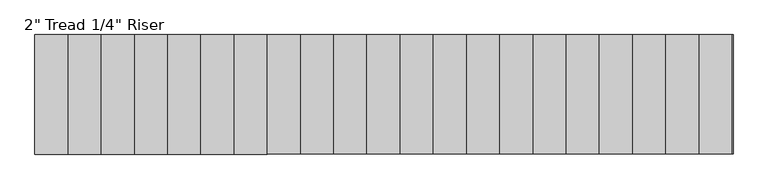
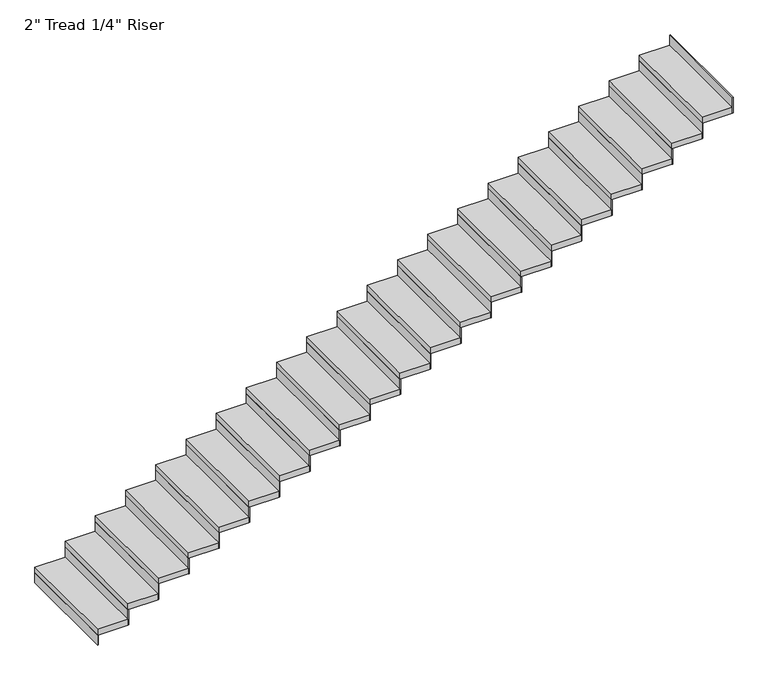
"""IFC4 building model written with IfcOpenShell, lengths in millimetres: stair flight geometry."""

from ifc_helpers import new_model, si_unit, frame, origin, origin_with_axes, place, context, project, spatial, polyline, outline, extrude, source, transform, mapped, element, save


def stair_flight_d89cc62d(model_context):
    return source(origin(), model_context, "Body", "SweptSolid", [
        extrude(outline(polyline([(10185.2072927, -52193.6426165), (10178.8572927, -52193.6426165), (10178.8572927, -51279.2426165), (10185.2072927, -51279.2426165), (10185.2072927, -52193.6426165)])), origin_with_axes(), (0.0, 0.0, 1.0), 87.7454545),
        extrude(outline(polyline([(10432.8572927, -51279.2426165), (10432.8572927, -52193.6426165), (10178.8572927, -52193.6426165), (10178.8572927, -51279.2426165), (10432.8572927, -51279.2426165)])), frame((0.0, 0.0, 87.7454545), z_axis=(0.0, 0.0, 1.0), x_axis=(1.0, 0.0, 0.0)), (0.0, 0.0, 1.0), 50.8),
        extrude(outline(polyline([(10439.2072927, -52193.6426165), (10432.8572927, -52193.6426165), (10432.8572927, -51279.2426165), (10439.2072927, -51279.2426165), (10439.2072927, -52193.6426165)])), frame((0.0, 0.0, 87.7454545), z_axis=(0.0, 0.0, 1.0), x_axis=(1.0, 0.0, 0.0)), (0.0, 0.0, 1.0), 138.5454545),
        extrude(outline(polyline([(10686.8572927, -51279.2426165), (10686.8572927, -52193.6426165), (10432.8572927, -52193.6426165), (10432.8572927, -51279.2426165), (10686.8572927, -51279.2426165)])), frame((0.0, 0.0, 226.2909091), z_axis=(0.0, 0.0, 1.0), x_axis=(1.0, 0.0, 0.0)), (0.0, 0.0, 1.0), 50.8),
        extrude(outline(polyline([(10693.2072927, -52193.6426165), (10686.8572927, -52193.6426165), (10686.8572927, -51279.2426165), (10693.2072927, -51279.2426165), (10693.2072927, -52193.6426165)])), frame((0.0, 0.0, 226.2909091), z_axis=(0.0, 0.0, 1.0), x_axis=(1.0, 0.0, 0.0)), (0.0, 0.0, 1.0), 138.5454545),
        extrude(outline(polyline([(10940.8572927, -51279.2426165), (10940.8572927, -52193.6426165), (10686.8572927, -52193.6426165), (10686.8572927, -51279.2426165), (10940.8572927, -51279.2426165)])), frame((0.0, 0.0, 364.8363636), z_axis=(0.0, 0.0, 1.0), x_axis=(1.0, 0.0, 0.0)), (0.0, 0.0, 1.0), 50.8),
        extrude(outline(polyline([(10947.2072927, -52193.6426165), (10940.8572927, -52193.6426165), (10940.8572927, -51279.2426165), (10947.2072927, -51279.2426165), (10947.2072927, -52193.6426165)])), frame((0.0, 0.0, 364.8363636), z_axis=(0.0, 0.0, 1.0), x_axis=(1.0, 0.0, 0.0)), (0.0, 0.0, 1.0), 138.5454545),
        extrude(outline(polyline([(11194.8572927, -51279.2426165), (11194.8572927, -52193.6426165), (10940.8572927, -52193.6426165), (10940.8572927, -51279.2426165), (11194.8572927, -51279.2426165)])), frame((0.0, 0.0, 503.3818182), z_axis=(0.0, 0.0, 1.0), x_axis=(1.0, 0.0, 0.0)), (0.0, 0.0, 1.0), 50.8),
        extrude(outline(polyline([(11201.2072927, -52193.6426165), (11194.8572927, -52193.6426165), (11194.8572927, -51279.2426165), (11201.2072927, -51279.2426165), (11201.2072927, -52193.6426165)])), frame((0.0, 0.0, 503.3818182), z_axis=(0.0, 0.0, 1.0), x_axis=(1.0, 0.0, 0.0)), (0.0, 0.0, 1.0), 138.5454545),
        extrude(outline(polyline([(11448.8572927, -51279.2426165), (11448.8572927, -52193.6426165), (11194.8572927, -52193.6426165), (11194.8572927, -51279.2426165), (11448.8572927, -51279.2426165)])), frame((0.0, 0.0, 641.9272727), z_axis=(0.0, 0.0, 1.0), x_axis=(1.0, 0.0, 0.0)), (0.0, 0.0, 1.0), 50.8),
        extrude(outline(polyline([(11455.2072927, -52193.6426165), (11448.8572927, -52193.6426165), (11448.8572927, -51279.2426165), (11455.2072927, -51279.2426165), (11455.2072927, -52193.6426165)])), frame((0.0, 0.0, 641.9272727), z_axis=(0.0, 0.0, 1.0), x_axis=(1.0, 0.0, 0.0)), (0.0, 0.0, 1.0), 138.5454545),
        extrude(outline(polyline([(11702.8572927, -51279.2426165), (11702.8572927, -52193.6426165), (11448.8572927, -52193.6426165), (11448.8572927, -51279.2426165), (11702.8572927, -51279.2426165)])), frame((0.0, 0.0, 780.4727273), z_axis=(0.0, 0.0, 1.0), x_axis=(1.0, 0.0, 0.0)), (0.0, 0.0, 1.0), 50.8),
        extrude(outline(polyline([(11709.2072927, -52193.6426165), (11702.8572927, -52193.6426165), (11702.8572927, -51279.2426165), (11709.2072927, -51279.2426165), (11709.2072927, -52193.6426165)])), frame((0.0, 0.0, 780.4727273), z_axis=(0.0, 0.0, 1.0), x_axis=(1.0, 0.0, 0.0)), (0.0, 0.0, 1.0), 138.5454545),
        extrude(outline(polyline([(11956.8572927, -51279.2426165), (11956.8572927, -52193.6426165), (11702.8572927, -52193.6426165), (11702.8572927, -51279.2426165), (11956.8572927, -51279.2426165)])), frame((0.0, 0.0, 919.0181818), z_axis=(0.0, 0.0, 1.0), x_axis=(1.0, 0.0, 0.0)), (0.0, 0.0, 1.0), 50.8),
        extrude(outline(polyline([(11963.2072927, -52193.6426165), (11956.8572927, -52193.6426165), (11956.8572927, -51279.2426165), (11963.2072927, -51279.2426165), (11963.2072927, -52193.6426165)])), frame((0.0, 0.0, 919.0181818), z_axis=(0.0, 0.0, 1.0), x_axis=(1.0, 0.0, 0.0)), (0.0, 0.0, 1.0), 138.5454545),
        extrude(outline(polyline([(12210.8572927, -51279.2426165), (12210.8572927, -52193.6426165), (11956.8572927, -52193.6426165), (11956.8572927, -51279.2426165), (12210.8572927, -51279.2426165)])), frame((0.0, 0.0, 1057.5636364), z_axis=(0.0, 0.0, 1.0), x_axis=(1.0, 0.0, 0.0)), (0.0, 0.0, 1.0), 50.8),
        extrude(outline(polyline([(12217.2072927, -52193.6426165), (12210.8572927, -52193.6426165), (12210.8572927, -51279.2426165), (12217.2072927, -51279.2426165), (12217.2072927, -52193.6426165)])), frame((0.0, 0.0, 1057.5636364), z_axis=(0.0, 0.0, 1.0), x_axis=(1.0, 0.0, 0.0)), (0.0, 0.0, 1.0), 138.5454545),
        extrude(outline(polyline([(12464.8572927, -51279.2426165), (12464.8572927, -52193.6426165), (12210.8572927, -52193.6426165), (12210.8572927, -51279.2426165), (12464.8572927, -51279.2426165)])), frame((0.0, 0.0, 1196.1090909), z_axis=(0.0, 0.0, 1.0), x_axis=(1.0, 0.0, 0.0)), (0.0, 0.0, 1.0), 50.8),
        extrude(outline(polyline([(12471.2072927, -52193.6426165), (12464.8572927, -52193.6426165), (12464.8572927, -51279.2426165), (12471.2072927, -51279.2426165), (12471.2072927, -52193.6426165)])), frame((0.0, 0.0, 1196.1090909), z_axis=(0.0, 0.0, 1.0), x_axis=(1.0, 0.0, 0.0)), (0.0, 0.0, 1.0), 138.5454545),
        extrude(outline(polyline([(12718.8572927, -51279.2426165), (12718.8572927, -52193.6426165), (12464.8572927, -52193.6426165), (12464.8572927, -51279.2426165), (12718.8572927, -51279.2426165)])), frame((0.0, 0.0, 1334.6545455), z_axis=(0.0, 0.0, 1.0), x_axis=(1.0, 0.0, 0.0)), (0.0, 0.0, 1.0), 50.8),
        extrude(outline(polyline([(12725.2072927, -52193.6426165), (12718.8572927, -52193.6426165), (12718.8572927, -51279.2426165), (12725.2072927, -51279.2426165), (12725.2072927, -52193.6426165)])), frame((0.0, 0.0, 1334.6545455), z_axis=(0.0, 0.0, 1.0), x_axis=(1.0, 0.0, 0.0)), (0.0, 0.0, 1.0), 138.5454545),
        extrude(outline(polyline([(12972.8572927, -51279.2426165), (12972.8572927, -52193.6426165), (12718.8572927, -52193.6426165), (12718.8572927, -51279.2426165), (12972.8572927, -51279.2426165)])), frame((0.0, 0.0, 1473.2), z_axis=(0.0, 0.0, 1.0), x_axis=(1.0, 0.0, 0.0)), (0.0, 0.0, 1.0), 50.8),
        extrude(outline(polyline([(12979.2072927, -52193.6426165), (12972.8572927, -52193.6426165), (12972.8572927, -51279.2426165), (12979.2072927, -51279.2426165), (12979.2072927, -52193.6426165)])), frame((0.0, 0.0, 1473.2), z_axis=(0.0, 0.0, 1.0), x_axis=(1.0, 0.0, 0.0)), (0.0, 0.0, 1.0), 138.5454545),
        extrude(outline(polyline([(13226.8572927, -51279.2426165), (13226.8572927, -52193.6426165), (12972.8572927, -52193.6426165), (12972.8572927, -51279.2426165), (13226.8572927, -51279.2426165)])), frame((0.0, 0.0, 1611.7454545), z_axis=(0.0, 0.0, 1.0), x_axis=(1.0, 0.0, 0.0)), (0.0, 0.0, 1.0), 50.8),
        extrude(outline(polyline([(13233.2072927, -52193.6426165), (13226.8572927, -52193.6426165), (13226.8572927, -51279.2426165), (13233.2072927, -51279.2426165), (13233.2072927, -52193.6426165)])), frame((0.0, 0.0, 1611.7454545), z_axis=(0.0, 0.0, 1.0), x_axis=(1.0, 0.0, 0.0)), (0.0, 0.0, 1.0), 138.5454545),
        extrude(outline(polyline([(13480.8572927, -51279.2426165), (13480.8572927, -52193.6426165), (13226.8572927, -52193.6426165), (13226.8572927, -51279.2426165), (13480.8572927, -51279.2426165)])), frame((0.0, 0.0, 1750.2909091), z_axis=(0.0, 0.0, 1.0), x_axis=(1.0, 0.0, 0.0)), (0.0, 0.0, 1.0), 50.8),
        extrude(outline(polyline([(13487.2072927, -52193.6426165), (13480.8572927, -52193.6426165), (13480.8572927, -51279.2426165), (13487.2072927, -51279.2426165), (13487.2072927, -52193.6426165)])), frame((0.0, 0.0, 1750.2909091), z_axis=(0.0, 0.0, 1.0), x_axis=(1.0, 0.0, 0.0)), (0.0, 0.0, 1.0), 138.5454545),
        extrude(outline(polyline([(13734.8572927, -51279.2426165), (13734.8572927, -52193.6426165), (13480.8572927, -52193.6426165), (13480.8572927, -51279.2426165), (13734.8572927, -51279.2426165)])), frame((0.0, 0.0, 1888.8363636), z_axis=(0.0, 0.0, 1.0), x_axis=(1.0, 0.0, 0.0)), (0.0, 0.0, 1.0), 50.8),
        extrude(outline(polyline([(13741.2072927, -52193.6426165), (13734.8572927, -52193.6426165), (13734.8572927, -51279.2426165), (13741.2072927, -51279.2426165), (13741.2072927, -52193.6426165)])), frame((0.0, 0.0, 1888.8363636), z_axis=(0.0, 0.0, 1.0), x_axis=(1.0, 0.0, 0.0)), (0.0, 0.0, 1.0), 138.5454545),
        extrude(outline(polyline([(13988.8572927, -51279.2426165), (13988.8572927, -52193.6426165), (13734.8572927, -52193.6426165), (13734.8572927, -51279.2426165), (13988.8572927, -51279.2426165)])), frame((0.0, 0.0, 2027.3818182), z_axis=(0.0, 0.0, 1.0), x_axis=(1.0, 0.0, 0.0)), (0.0, 0.0, 1.0), 50.8),
        extrude(outline(polyline([(13995.2072927, -52193.6426165), (13988.8572927, -52193.6426165), (13988.8572927, -51279.2426165), (13995.2072927, -51279.2426165), (13995.2072927, -52193.6426165)])), frame((0.0, 0.0, 2027.3818182), z_axis=(0.0, 0.0, 1.0), x_axis=(1.0, 0.0, 0.0)), (0.0, 0.0, 1.0), 138.5454545),
        extrude(outline(polyline([(14242.8572927, -51279.2426165), (14242.8572927, -52193.6426165), (13988.8572927, -52193.6426165), (13988.8572927, -51279.2426165), (14242.8572927, -51279.2426165)])), frame((0.0, 0.0, 2165.9272727), z_axis=(0.0, 0.0, 1.0), x_axis=(1.0, 0.0, 0.0)), (0.0, 0.0, 1.0), 50.8),
        extrude(outline(polyline([(14249.2072927, -52193.6426165), (14242.8572927, -52193.6426165), (14242.8572927, -51279.2426165), (14249.2072927, -51279.2426165), (14249.2072927, -52193.6426165)])), frame((0.0, 0.0, 2165.9272727), z_axis=(0.0, 0.0, 1.0), x_axis=(1.0, 0.0, 0.0)), (0.0, 0.0, 1.0), 138.5454545),
        extrude(outline(polyline([(14496.8572927, -51279.2426165), (14496.8572927, -52193.6426165), (14242.8572927, -52193.6426165), (14242.8572927, -51279.2426165), (14496.8572927, -51279.2426165)])), frame((0.0, 0.0, 2304.4727273), z_axis=(0.0, 0.0, 1.0), x_axis=(1.0, 0.0, 0.0)), (0.0, 0.0, 1.0), 50.8),
        extrude(outline(polyline([(14503.2072927, -52193.6426165), (14496.8572927, -52193.6426165), (14496.8572927, -51279.2426165), (14503.2072927, -51279.2426165), (14503.2072927, -52193.6426165)])), frame((0.0, 0.0, 2304.4727273), z_axis=(0.0, 0.0, 1.0), x_axis=(1.0, 0.0, 0.0)), (0.0, 0.0, 1.0), 138.5454545),
        extrude(outline(polyline([(14750.8572927, -51279.2426165), (14750.8572927, -52193.6426165), (14496.8572927, -52193.6426165), (14496.8572927, -51279.2426165), (14750.8572927, -51279.2426165)])), frame((0.0, 0.0, 2443.0181818), z_axis=(0.0, 0.0, 1.0), x_axis=(1.0, 0.0, 0.0)), (0.0, 0.0, 1.0), 50.8),
        extrude(outline(polyline([(14757.2072927, -52193.6426165), (14750.8572927, -52193.6426165), (14750.8572927, -51279.2426165), (14757.2072927, -51279.2426165), (14757.2072927, -52193.6426165)])), frame((0.0, 0.0, 2443.0181818), z_axis=(0.0, 0.0, 1.0), x_axis=(1.0, 0.0, 0.0)), (0.0, 0.0, 1.0), 138.5454545),
        extrude(outline(polyline([(15004.8572927, -51279.2426165), (15004.8572927, -52193.6426165), (14750.8572927, -52193.6426165), (14750.8572927, -51279.2426165), (15004.8572927, -51279.2426165)])), frame((0.0, 0.0, 2581.5636364), z_axis=(0.0, 0.0, 1.0), x_axis=(1.0, 0.0, 0.0)), (0.0, 0.0, 1.0), 50.8),
        extrude(outline(polyline([(15011.2072927, -52193.6426165), (15004.8572927, -52193.6426165), (15004.8572927, -51279.2426165), (15011.2072927, -51279.2426165), (15011.2072927, -52193.6426165)])), frame((0.0, 0.0, 2581.5636364), z_axis=(0.0, 0.0, 1.0), x_axis=(1.0, 0.0, 0.0)), (0.0, 0.0, 1.0), 138.5454545),
        extrude(outline(polyline([(15258.8572927, -51279.2426165), (15258.8572927, -52193.6426165), (15004.8572927, -52193.6426165), (15004.8572927, -51279.2426165), (15258.8572927, -51279.2426165)])), frame((0.0, 0.0, 2720.1090909), z_axis=(0.0, 0.0, 1.0), x_axis=(1.0, 0.0, 0.0)), (0.0, 0.0, 1.0), 50.8),
        extrude(outline(polyline([(15265.2072927, -52193.6426165), (15258.8572927, -52193.6426165), (15258.8572927, -51279.2426165), (15265.2072927, -51279.2426165), (15265.2072927, -52193.6426165)])), frame((0.0, 0.0, 2720.1090909), z_axis=(0.0, 0.0, 1.0), x_axis=(1.0, 0.0, 0.0)), (0.0, 0.0, 1.0), 138.5454545),
        extrude(outline(polyline([(15519.2072927, -52193.6426165), (15512.8572927, -52193.6426165), (15512.8572927, -51279.2426165), (15519.2072927, -51279.2426165), (15519.2072927, -52193.6426165)])), frame((0.0, 0.0, 2858.6545455), z_axis=(0.0, 0.0, 1.0), x_axis=(1.0, 0.0, 0.0)), (0.0, 0.0, 1.0), 138.5454545),
        extrude(outline(polyline([(15512.8572927, -51279.2426165), (15512.8572927, -52193.6426165), (15258.8572927, -52193.6426165), (15258.8572927, -51279.2426165), (15512.8572927, -51279.2426165)])), frame((0.0, 0.0, 2858.6545455), z_axis=(0.0, 0.0, 1.0), x_axis=(1.0, 0.0, 0.0)), (0.0, 0.0, 1.0), 50.8),
    ])


if __name__ == "__main__":
    model = new_model("IFC4")
    model_context = context("Model", 3, world=origin())
    ifc_project = project(units=[si_unit("LENGTHUNIT", "METRE", prefix="MILLI")], contexts=[model_context])
    site = spatial("IfcSite", under=ifc_project)
    building = spatial("IfcBuilding", under=site)
    placement = place(None, origin())
    stair_flight_shape = stair_flight_d89cc62d(model_context)
    element("IfcStairFlight", 1, ObjectType="2\" Tread 1/4\" Riser", at=placement, inside=building, context=model_context, shape_type="MappedRepresentation", body=[
        mapped(stair_flight_shape, transform((0.0, 0.0, 0.0), x_axis=(1.0, 0.0, 0.0), y_axis=(0.0, 1.0, 0.0), z_axis=(0.0, 0.0, 1.0))),
    ])
    save(model, "model.ifc")
